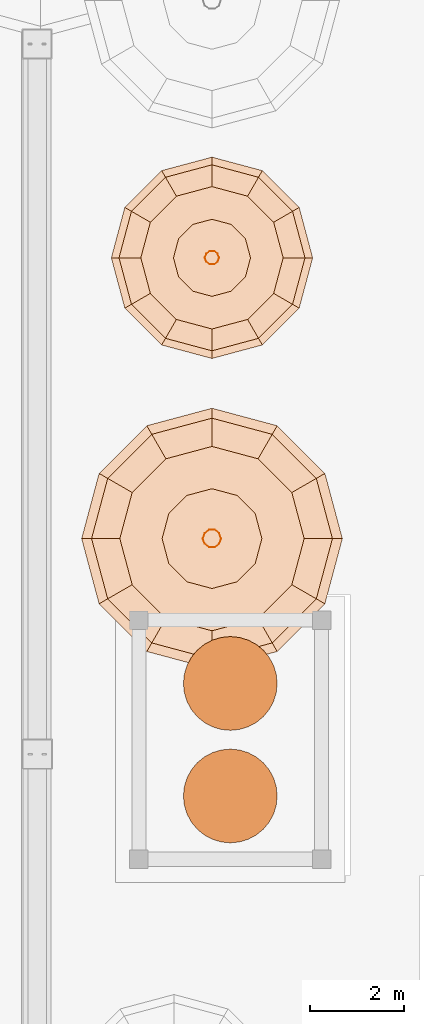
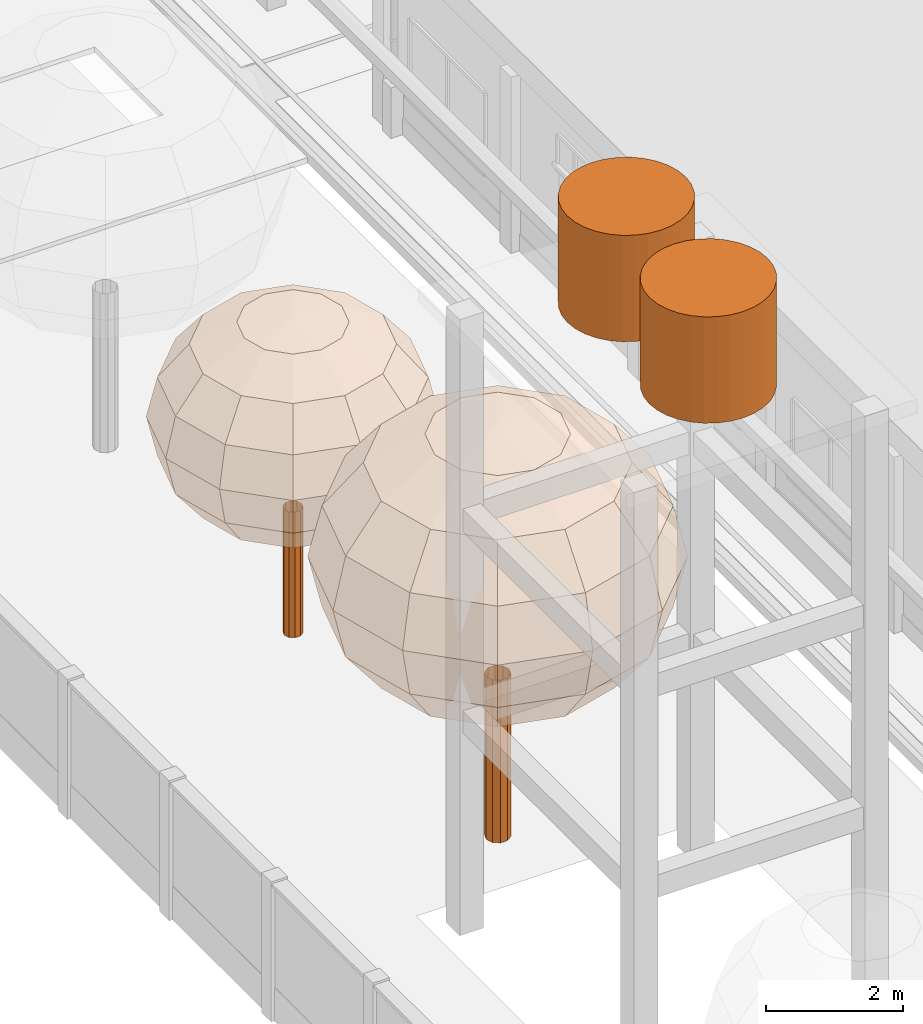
# One storey, part 155 of 177: 4 geographic elements, 2 proxies.
"""IFC4 building model written with IfcOpenShell, lengths in metres."""

from ifc_helpers import new_model, si_unit, origin, origin_with_axes, place, context, subcontext, project, spatial, triangles, element, save


model = new_model("IFC4")

# Units and contexts
model_context = context("Model", 3, precision=1e-05, world=origin_with_axes())
body_context = subcontext(model_context, "Body", "Model", "MODEL_VIEW")
ifc_project = project(units=[si_unit("LENGTHUNIT", "METRE"), si_unit("AREAUNIT", "SQUARE_METRE"), si_unit("VOLUMEUNIT", "CUBIC_METRE"), si_unit("PLANEANGLEUNIT", "RADIAN")], contexts=[model_context])

# Site, building, storey
site_placement = place(None, origin_with_axes())
site = spatial("IfcSite", under=ifc_project, at=site_placement, Name="Predio Los Mangos - Morales, San Martín", CompositionType="ELEMENT")
building_placement = place(site_placement, origin())
building = spatial("IfcBuilding", under=site, at=building_placement, Name="Hogar de Refugio Temporal", CompositionType="ELEMENT")
storey_placement = place(building_placement, origin())
storey = spatial("IfcBuildingStorey", under=building, at=storey_placement, Name="NIVEL 1 (NPT +0.00)", CompositionType="ELEMENT", Elevation=0.0)

# Proxies
proxy_1_placement = place(storey_placement, origin())
element("IfcBuildingElementProxy", 1, at=proxy_1_placement, inside=storey, Name="Cylinder", ObjectType="Elemento", PredefinedType="NOTDEFINED", context=body_context, shape_type="Tessellation", body=[
    triangles([(6.55, 27.75, 11.25), (6.55, 27.75, 13.15), (6.7451, 27.7308, 11.25), (6.7451, 27.7308, 13.15), (6.9327, 27.6739, 11.25), (6.9327, 27.6739, 13.15), (7.1056, 27.5815, 11.25), (7.1056, 27.5815, 13.15), (7.2571, 27.4571, 11.25), (7.2571, 27.4571, 13.15), (7.3815, 27.3056, 11.25), (7.3815, 27.3056, 13.15), (7.4739, 27.1327, 11.25), (7.4739, 27.1327, 13.15), (7.5308, 26.9451, 11.25), (7.5308, 26.9451, 13.15), (7.55, 26.75, 11.25), (7.55, 26.75, 13.15), (7.5308, 26.5549, 11.25), (7.5308, 26.5549, 13.15), (7.4739, 26.3673, 11.25), (7.4739, 26.3673, 13.15), (7.3815, 26.1944, 11.25), (7.3815, 26.1944, 13.15), (7.2571, 26.0429, 11.25), (7.2571, 26.0429, 13.15), (7.1056, 25.9185, 11.25), (7.1056, 25.9185, 13.15), (6.9327, 25.8261, 11.25), (6.9327, 25.8261, 13.15), (6.7451, 25.7692, 11.25), (6.7451, 25.7692, 13.15), (6.55, 25.75, 11.25), (6.55, 25.75, 13.15), (6.3549, 25.7692, 11.25), (6.3549, 25.7692, 13.15), (6.1673, 25.8261, 11.25), (6.1673, 25.8261, 13.15), (5.9944, 25.9185, 11.25), (5.9944, 25.9185, 13.15), (5.8429, 26.0429, 11.25), (5.8429, 26.0429, 13.15), (5.7185, 26.1944, 11.25), (5.7185, 26.1944, 13.15), (5.6261, 26.3673, 11.25), (5.6261, 26.3673, 13.15), (5.5692, 26.5549, 11.25), (5.5692, 26.5549, 13.15), (5.55, 26.75, 11.25), (5.55, 26.75, 13.15), (5.5692, 26.9451, 11.25), (5.5692, 26.9451, 13.15), (5.6261, 27.1327, 11.25), (5.6261, 27.1327, 13.15), (5.7185, 27.3056, 11.25), (5.7185, 27.3056, 13.15), (5.8429, 27.4571, 11.25), (5.8429, 27.4571, 13.15), (5.9944, 27.5815, 11.25), (5.9944, 27.5815, 13.15), (6.1673, 27.6739, 11.25), (6.1673, 27.6739, 13.15), (6.3549, 27.7308, 11.25), (6.3549, 27.7308, 13.15)], [[1, 2, 4], [1, 4, 3], [3, 4, 6], [3, 6, 5], [5, 6, 8], [5, 8, 7], [7, 8, 10], [7, 10, 9], [9, 10, 12], [9, 12, 11], [11, 12, 14], [11, 14, 13], [13, 14, 16], [13, 16, 15], [15, 16, 18], [15, 18, 17], [17, 18, 20], [17, 20, 19], [19, 20, 22], [19, 22, 21], [21, 22, 24], [21, 24, 23], [23, 24, 26], [23, 26, 25], [25, 26, 28], [25, 28, 27], [27, 28, 30], [27, 30, 29], [29, 30, 32], [29, 32, 31], [31, 32, 34], [31, 34, 33], [33, 34, 36], [33, 36, 35], [35, 36, 38], [35, 38, 37], [37, 38, 40], [37, 40, 39], [39, 40, 42], [39, 42, 41], [41, 42, 44], [41, 44, 43], [43, 44, 46], [43, 46, 45], [45, 46, 48], [45, 48, 47], [47, 48, 50], [47, 50, 49], [49, 50, 52], [49, 52, 51], [51, 52, 54], [51, 54, 53], [53, 54, 56], [53, 56, 55], [55, 56, 58], [55, 58, 57], [57, 58, 60], [57, 60, 59], [59, 60, 62], [59, 62, 61], [6, 4, 2], [2, 64, 62], [62, 60, 58], [58, 56, 54], [54, 52, 50], [50, 48, 46], [46, 44, 42], [42, 40, 38], [38, 36, 34], [34, 32, 30], [30, 28, 26], [26, 24, 22], [22, 20, 18], [18, 16, 14], [14, 12, 10], [10, 8, 6], [6, 2, 62], [62, 58, 54], [54, 50, 46], [46, 42, 38], [38, 34, 30], [30, 26, 22], [22, 18, 14], [14, 10, 6], [6, 62, 54], [54, 46, 38], [38, 30, 22], [22, 14, 6], [6, 54, 38], [38, 22, 6], [61, 62, 64], [61, 64, 63], [63, 64, 2], [63, 2, 1], [63, 1, 3], [3, 5, 7], [7, 9, 11], [11, 13, 15], [15, 17, 19], [19, 21, 23], [23, 25, 27], [27, 29, 31], [31, 33, 35], [35, 37, 39], [39, 41, 43], [43, 45, 47], [47, 49, 51], [51, 53, 55], [55, 57, 59], [59, 61, 63], [63, 3, 7], [7, 11, 15], [15, 19, 23], [23, 27, 31], [31, 35, 39], [39, 43, 47], [47, 51, 55], [55, 59, 63], [63, 7, 15], [15, 23, 31], [31, 39, 47], [47, 55, 63], [63, 15, 31], [31, 47, 63]]),
])
proxy_2_placement = place(storey_placement, origin())
element("IfcBuildingElementProxy", 2, at=proxy_2_placement, inside=storey, Name="Cylinder", ObjectType="Elemento", PredefinedType="NOTDEFINED", context=body_context, shape_type="Tessellation", body=[
    triangles([(6.55, 30.15, 11.25), (6.55, 30.15, 13.15), (6.7451, 30.1308, 11.25), (6.7451, 30.1308, 13.15), (6.9327, 30.0739, 11.25), (6.9327, 30.0739, 13.15), (7.1056, 29.9815, 11.25), (7.1056, 29.9815, 13.15), (7.2571, 29.8571, 11.25), (7.2571, 29.8571, 13.15), (7.3815, 29.7056, 11.25), (7.3815, 29.7056, 13.15), (7.4739, 29.5327, 11.25), (7.4739, 29.5327, 13.15), (7.5308, 29.3451, 11.25), (7.5308, 29.3451, 13.15), (7.55, 29.15, 11.25), (7.55, 29.15, 13.15), (7.5308, 28.9549, 11.25), (7.5308, 28.9549, 13.15), (7.4739, 28.7673, 11.25), (7.4739, 28.7673, 13.15), (7.3815, 28.5944, 11.25), (7.3815, 28.5944, 13.15), (7.2571, 28.4429, 11.25), (7.2571, 28.4429, 13.15), (7.1056, 28.3185, 11.25), (7.1056, 28.3185, 13.15), (6.9327, 28.2261, 11.25), (6.9327, 28.2261, 13.15), (6.7451, 28.1692, 11.25), (6.7451, 28.1692, 13.15), (6.55, 28.15, 11.25), (6.55, 28.15, 13.15), (6.3549, 28.1692, 11.25), (6.3549, 28.1692, 13.15), (6.1673, 28.2261, 11.25), (6.1673, 28.2261, 13.15), (5.9944, 28.3185, 11.25), (5.9944, 28.3185, 13.15), (5.8429, 28.4429, 11.25), (5.8429, 28.4429, 13.15), (5.7185, 28.5944, 11.25), (5.7185, 28.5944, 13.15), (5.6261, 28.7673, 11.25), (5.6261, 28.7673, 13.15), (5.5692, 28.9549, 11.25), (5.5692, 28.9549, 13.15), (5.55, 29.15, 11.25), (5.55, 29.15, 13.15), (5.5692, 29.3451, 11.25), (5.5692, 29.3451, 13.15), (5.6261, 29.5327, 11.25), (5.6261, 29.5327, 13.15), (5.7185, 29.7056, 11.25), (5.7185, 29.7056, 13.15), (5.8429, 29.8571, 11.25), (5.8429, 29.8571, 13.15), (5.9944, 29.9815, 11.25), (5.9944, 29.9815, 13.15), (6.1673, 30.0739, 11.25), (6.1673, 30.0739, 13.15), (6.3549, 30.1308, 11.25), (6.3549, 30.1308, 13.15)], [[1, 2, 4], [1, 4, 3], [3, 4, 6], [3, 6, 5], [5, 6, 8], [5, 8, 7], [7, 8, 10], [7, 10, 9], [9, 10, 12], [9, 12, 11], [11, 12, 14], [11, 14, 13], [13, 14, 16], [13, 16, 15], [15, 16, 18], [15, 18, 17], [17, 18, 20], [17, 20, 19], [19, 20, 22], [19, 22, 21], [21, 22, 24], [21, 24, 23], [23, 24, 26], [23, 26, 25], [25, 26, 28], [25, 28, 27], [27, 28, 30], [27, 30, 29], [29, 30, 32], [29, 32, 31], [31, 32, 34], [31, 34, 33], [33, 34, 36], [33, 36, 35], [35, 36, 38], [35, 38, 37], [37, 38, 40], [37, 40, 39], [39, 40, 42], [39, 42, 41], [41, 42, 44], [41, 44, 43], [43, 44, 46], [43, 46, 45], [45, 46, 48], [45, 48, 47], [47, 48, 50], [47, 50, 49], [49, 50, 52], [49, 52, 51], [51, 52, 54], [51, 54, 53], [53, 54, 56], [53, 56, 55], [55, 56, 58], [55, 58, 57], [57, 58, 60], [57, 60, 59], [59, 60, 62], [59, 62, 61], [6, 4, 2], [2, 64, 62], [62, 60, 58], [58, 56, 54], [54, 52, 50], [50, 48, 46], [46, 44, 42], [42, 40, 38], [38, 36, 34], [34, 32, 30], [30, 28, 26], [26, 24, 22], [22, 20, 18], [18, 16, 14], [14, 12, 10], [10, 8, 6], [6, 2, 62], [62, 58, 54], [54, 50, 46], [46, 42, 38], [38, 34, 30], [30, 26, 22], [22, 18, 14], [14, 10, 6], [6, 62, 54], [54, 46, 38], [38, 30, 22], [22, 14, 6], [6, 54, 38], [38, 22, 6], [61, 62, 64], [61, 64, 63], [63, 64, 2], [63, 2, 1], [63, 1, 3], [3, 5, 7], [7, 9, 11], [11, 13, 15], [15, 17, 19], [19, 21, 23], [23, 25, 27], [27, 29, 31], [31, 33, 35], [35, 37, 39], [39, 41, 43], [43, 45, 47], [47, 49, 51], [51, 53, 55], [55, 57, 59], [59, 61, 63], [63, 3, 7], [7, 11, 15], [15, 19, 23], [23, 27, 31], [31, 35, 39], [39, 43, 47], [47, 51, 55], [55, 59, 63], [63, 7, 15], [15, 23, 31], [31, 39, 47], [47, 55, 63], [63, 15, 31], [31, 47, 63]]),
])

# Geographic elements
geographic_element_1_placement = place(storey_placement, origin())
element("IfcGeographicElement", 3, at=geographic_element_1_placement, inside=storey, Name="arbol_tronco", ObjectType="Árbol", PredefinedType="NOTDEFINED", context=body_context, shape_type="Tessellation", body=[
    triangles([(6.3094, 38.23, 0.0), (6.2809, 38.3178, 0.0), (6.2062, 38.3721, 0.0), (6.1138, 38.3721, 0.0), (6.0391, 38.3178, 0.0), (6.0106, 38.23, 0.0), (6.0391, 38.1422, 0.0), (6.1138, 38.0879, 0.0), (6.2062, 38.0879, 0.0), (6.2809, 38.1422, 0.0), (6.3094, 38.23, 2.2407), (6.2809, 38.3178, 2.2407), (6.2062, 38.3721, 2.2407), (6.1138, 38.3721, 2.2407), (6.0391, 38.3178, 2.2407), (6.0106, 38.23, 2.2407), (6.0391, 38.1422, 2.2407), (6.1138, 38.0879, 2.2407), (6.2062, 38.0879, 2.2407), (6.2809, 38.1422, 2.2407)], [[1, 2, 12], [2, 3, 13], [3, 4, 14], [4, 5, 15], [5, 6, 16], [6, 7, 17], [7, 8, 18], [8, 9, 19], [9, 10, 20], [10, 1, 11], [1, 12, 11], [2, 13, 12], [3, 14, 13], [4, 15, 14], [5, 16, 15], [6, 17, 16], [7, 18, 17], [8, 19, 18], [9, 20, 19], [10, 11, 20]]),
])
geographic_element_2_placement = place(storey_placement, origin())
element("IfcGeographicElement", 4, at=geographic_element_2_placement, inside=storey, Name="arbol_copa", ObjectType="Árbol", PredefinedType="NOTDEFINED", context=body_context, shape_type="Tessellation", body=[
    triangles([(6.16, 38.23, 5.6765), (6.16, 38.23, 5.6765), (6.16, 38.23, 5.6765), (6.16, 38.23, 5.6765), (6.16, 38.23, 5.6765), (6.16, 38.23, 5.6765), (6.16, 38.23, 5.6765), (6.16, 38.23, 5.6765), (6.16, 38.23, 5.6765), (6.16, 38.23, 5.6765), (6.16, 38.23, 5.6765), (6.16, 38.23, 5.6765), (6.9818, 38.23, 5.5376), (6.8717, 38.6409, 5.5376), (6.5709, 38.9417, 5.5376), (6.16, 39.0518, 5.5376), (5.7491, 38.9417, 5.5376), (5.4483, 38.6409, 5.5376), (5.3382, 38.23, 5.5376), (5.4483, 37.8191, 5.5376), (5.7491, 37.5183, 5.5376), (6.16, 37.4082, 5.5376), (6.5709, 37.5183, 5.5376), (6.8717, 37.8191, 5.5376), (7.6784, 38.23, 5.1419), (7.475, 38.9892, 5.1419), (6.9192, 39.545, 5.1419), (6.16, 39.7484, 5.1419), (5.4008, 39.545, 5.1419), (4.845, 38.9892, 5.1419), (4.6416, 38.23, 5.1419), (4.845, 37.4708, 5.1419), (5.4008, 36.915, 5.1419), (6.16, 36.7116, 5.1419), (6.9192, 36.915, 5.1419), (7.475, 37.4708, 5.1419), (8.1439, 38.23, 4.5498), (7.8781, 39.222, 4.5498), (7.152, 39.9481, 4.5498), (6.16, 40.2139, 4.5498), (5.168, 39.9481, 4.5498), (4.4419, 39.222, 4.5498), (4.1761, 38.23, 4.5498), (4.4419, 37.238, 4.5498), (5.168, 36.5119, 4.5498), (6.16, 36.2461, 4.5498), (7.152, 36.5119, 4.5498), (7.8781, 37.238, 4.5498), (8.3074, 38.23, 3.8513), (8.0197, 39.3037, 3.8513), (7.2337, 40.0897, 3.8513), (6.16, 40.3774, 3.8513), (5.0863, 40.0897, 3.8513), (4.3003, 39.3037, 3.8513), (4.0126, 38.23, 3.8513), (4.3003, 37.1563, 3.8513), (5.0863, 36.3703, 3.8513), (6.16, 36.0826, 3.8513), (7.2337, 36.3703, 3.8513), (8.0197, 37.1563, 3.8513), (8.1439, 38.23, 3.1528), (7.8781, 39.222, 3.1528), (7.152, 39.9481, 3.1528), (6.16, 40.2139, 3.1528), (5.168, 39.9481, 3.1528), (4.4419, 39.222, 3.1528), (4.1761, 38.23, 3.1528), (4.4419, 37.238, 3.1528), (5.168, 36.5119, 3.1528), (6.16, 36.2461, 3.1528), (7.152, 36.5119, 3.1528), (7.8781, 37.238, 3.1528), (7.6784, 38.23, 2.5606), (7.475, 38.9892, 2.5606), (6.9192, 39.545, 2.5606), (6.16, 39.7484, 2.5606), (5.4008, 39.545, 2.5606), (4.845, 38.9892, 2.5606), (4.6416, 38.23, 2.5606), (4.845, 37.4708, 2.5606), (5.4008, 36.915, 2.5606), (6.16, 36.7116, 2.5606), (6.9192, 36.915, 2.5606), (7.475, 37.4708, 2.5606), (6.9818, 38.23, 2.1649), (6.8717, 38.6409, 2.1649), (6.5709, 38.9417, 2.1649), (6.16, 39.0518, 2.1649), (5.7491, 38.9417, 2.1649), (5.4483, 38.6409, 2.1649), (5.3382, 38.23, 2.1649), (5.4483, 37.8191, 2.1649), (5.7491, 37.5183, 2.1649), (6.16, 37.4082, 2.1649), (6.5709, 37.5183, 2.1649), (6.8717, 37.8191, 2.1649), (6.16, 38.23, 2.026), (6.16, 38.23, 2.026), (6.16, 38.23, 2.026), (6.16, 38.23, 2.026), (6.16, 38.23, 2.026), (6.16, 38.23, 2.026), (6.16, 38.23, 2.026), (6.16, 38.23, 2.026), (6.16, 38.23, 2.026), (6.16, 38.23, 2.026), (6.16, 38.23, 2.026), (6.16, 38.23, 2.026)], [[1, 2, 14], [1, 14, 13], [2, 3, 15], [2, 15, 14], [3, 4, 16], [3, 16, 15], [4, 5, 17], [4, 17, 16], [5, 6, 18], [5, 18, 17], [6, 7, 19], [6, 19, 18], [7, 8, 20], [7, 20, 19], [8, 9, 21], [8, 21, 20], [9, 10, 22], [9, 22, 21], [10, 11, 23], [10, 23, 22], [11, 12, 24], [11, 24, 23], [12, 1, 13], [12, 13, 24], [13, 14, 26], [13, 26, 25], [14, 15, 27], [14, 27, 26], [15, 16, 28], [15, 28, 27], [16, 17, 29], [16, 29, 28], [17, 18, 30], [17, 30, 29], [18, 19, 31], [18, 31, 30], [19, 20, 32], [19, 32, 31], [20, 21, 33], [20, 33, 32], [21, 22, 34], [21, 34, 33], [22, 23, 35], [22, 35, 34], [23, 24, 36], [23, 36, 35], [24, 13, 25], [24, 25, 36], [25, 26, 38], [25, 38, 37], [26, 27, 39], [26, 39, 38], [27, 28, 40], [27, 40, 39], [28, 29, 41], [28, 41, 40], [29, 30, 42], [29, 42, 41], [30, 31, 43], [30, 43, 42], [31, 32, 44], [31, 44, 43], [32, 33, 45], [32, 45, 44], [33, 34, 46], [33, 46, 45], [34, 35, 47], [34, 47, 46], [35, 36, 48], [35, 48, 47], [36, 25, 37], [36, 37, 48], [37, 38, 50], [37, 50, 49], [38, 39, 51], [38, 51, 50], [39, 40, 52], [39, 52, 51], [40, 41, 53], [40, 53, 52], [41, 42, 54], [41, 54, 53], [42, 43, 55], [42, 55, 54], [43, 44, 56], [43, 56, 55], [44, 45, 57], [44, 57, 56], [45, 46, 58], [45, 58, 57], [46, 47, 59], [46, 59, 58], [47, 48, 60], [47, 60, 59], [48, 37, 49], [48, 49, 60], [49, 50, 62], [49, 62, 61], [50, 51, 63], [50, 63, 62], [51, 52, 64], [51, 64, 63], [52, 53, 65], [52, 65, 64], [53, 54, 66], [53, 66, 65], [54, 55, 67], [54, 67, 66], [55, 56, 68], [55, 68, 67], [56, 57, 69], [56, 69, 68], [57, 58, 70], [57, 70, 69], [58, 59, 71], [58, 71, 70], [59, 60, 72], [59, 72, 71], [60, 49, 61], [60, 61, 72], [61, 62, 74], [61, 74, 73], [62, 63, 75], [62, 75, 74], [63, 64, 76], [63, 76, 75], [64, 65, 77], [64, 77, 76], [65, 66, 78], [65, 78, 77], [66, 67, 79], [66, 79, 78], [67, 68, 80], [67, 80, 79], [68, 69, 81], [68, 81, 80], [69, 70, 82], [69, 82, 81], [70, 71, 83], [70, 83, 82], [71, 72, 84], [71, 84, 83], [72, 61, 73], [72, 73, 84], [73, 74, 86], [73, 86, 85], [74, 75, 87], [74, 87, 86], [75, 76, 88], [75, 88, 87], [76, 77, 89], [76, 89, 88], [77, 78, 90], [77, 90, 89], [78, 79, 91], [78, 91, 90], [79, 80, 92], [79, 92, 91], [80, 81, 93], [80, 93, 92], [81, 82, 94], [81, 94, 93], [82, 83, 95], [82, 95, 94], [83, 84, 96], [83, 96, 95], [84, 73, 85], [84, 85, 96], [85, 86, 98], [85, 98, 97], [86, 87, 99], [86, 99, 98], [87, 88, 100], [87, 100, 99], [88, 89, 101], [88, 101, 100], [89, 90, 102], [89, 102, 101], [90, 91, 103], [90, 103, 102], [91, 92, 104], [91, 104, 103], [92, 93, 105], [92, 105, 104], [93, 94, 106], [93, 106, 105], [94, 95, 107], [94, 107, 106], [95, 96, 108], [95, 108, 107], [96, 85, 97], [96, 97, 108]]),
])
geographic_element_3_placement = place(storey_placement, origin())
element("IfcGeographicElement", 5, at=geographic_element_3_placement, inside=storey, Name="arbol_tronco", ObjectType="Árbol", PredefinedType="NOTDEFINED", context=body_context, shape_type="Tessellation", body=[
    triangles([(6.3534, 32.24, 0.0), (6.3165, 32.3537, 0.0), (6.2198, 32.424, 0.0), (6.1002, 32.424, 0.0), (6.0035, 32.3537, 0.0), (5.9666, 32.24, 0.0), (6.0035, 32.1263, 0.0), (6.1002, 32.056, 0.0), (6.2198, 32.056, 0.0), (6.3165, 32.1263, 0.0), (6.3534, 32.24, 2.9016), (6.3165, 32.3537, 2.9016), (6.2198, 32.424, 2.9016), (6.1002, 32.424, 2.9016), (6.0035, 32.3537, 2.9016), (5.9666, 32.24, 2.9016), (6.0035, 32.1263, 2.9016), (6.1002, 32.056, 2.9016), (6.2198, 32.056, 2.9016), (6.3165, 32.1263, 2.9016)], [[1, 2, 12], [2, 3, 13], [3, 4, 14], [4, 5, 15], [5, 6, 16], [6, 7, 17], [7, 8, 18], [8, 9, 19], [9, 10, 20], [10, 1, 11], [1, 12, 11], [2, 13, 12], [3, 14, 13], [4, 15, 14], [5, 16, 15], [6, 17, 16], [7, 18, 17], [8, 19, 18], [9, 20, 19], [10, 11, 20]]),
])
geographic_element_4_placement = place(storey_placement, origin())
element("IfcGeographicElement", 6, at=geographic_element_4_placement, inside=storey, Name="arbol_copa", ObjectType="Árbol", PredefinedType="NOTDEFINED", context=body_context, shape_type="Tessellation", body=[
    triangles([(6.16, 32.24, 7.3508), (6.16, 32.24, 7.3508), (6.16, 32.24, 7.3508), (6.16, 32.24, 7.3508), (6.16, 32.24, 7.3508), (6.16, 32.24, 7.3508), (6.16, 32.24, 7.3508), (6.16, 32.24, 7.3508), (6.16, 32.24, 7.3508), (6.16, 32.24, 7.3508), (6.16, 32.24, 7.3508), (6.16, 32.24, 7.3508), (7.2241, 32.24, 7.1709), (7.0816, 32.7721, 7.1709), (6.6921, 33.1616, 7.1709), (6.16, 33.3041, 7.1709), (5.6279, 33.1616, 7.1709), (5.2384, 32.7721, 7.1709), (5.0959, 32.24, 7.1709), (5.2384, 31.7079, 7.1709), (5.6279, 31.3184, 7.1709), (6.16, 31.1759, 7.1709), (6.6921, 31.3184, 7.1709), (7.0816, 31.7079, 7.1709), (8.1263, 32.24, 6.6585), (7.8628, 33.2231, 6.6585), (7.1431, 33.9428, 6.6585), (6.16, 34.2063, 6.6585), (5.1769, 33.9428, 6.6585), (4.4572, 33.2231, 6.6585), (4.1937, 32.24, 6.6585), (4.4572, 31.2569, 6.6585), (5.1769, 30.5372, 6.6585), (6.16, 30.2737, 6.6585), (7.1431, 30.5372, 6.6585), (7.8628, 31.2569, 6.6585), (8.7291, 32.24, 5.8917), (8.3849, 33.5245, 5.8917), (7.4445, 34.4649, 5.8917), (6.16, 34.8091, 5.8917), (4.8755, 34.4649, 5.8917), (3.9351, 33.5245, 5.8917), (3.5909, 32.24, 5.8917), (3.9351, 30.9555, 5.8917), (4.8755, 30.0151, 5.8917), (6.16, 29.6709, 5.8917), (7.4445, 30.0151, 5.8917), (8.3849, 30.9555, 5.8917), (8.9407, 32.24, 4.9872), (8.5682, 33.6304, 4.9872), (7.5504, 34.6482, 4.9872), (6.16, 35.0207, 4.9872), (4.7696, 34.6482, 4.9872), (3.7518, 33.6304, 4.9872), (3.3793, 32.24, 4.9872), (3.7518, 30.8496, 4.9872), (4.7696, 29.8318, 4.9872), (6.16, 29.4593, 4.9872), (7.5504, 29.8318, 4.9872), (8.5682, 30.8496, 4.9872), (8.7291, 32.24, 4.0827), (8.3849, 33.5245, 4.0827), (7.4445, 34.4649, 4.0827), (6.16, 34.8091, 4.0827), (4.8755, 34.4649, 4.0827), (3.9351, 33.5245, 4.0827), (3.5909, 32.24, 4.0827), (3.9351, 30.9555, 4.0827), (4.8755, 30.0151, 4.0827), (6.16, 29.6709, 4.0827), (7.4445, 30.0151, 4.0827), (8.3849, 30.9555, 4.0827), (8.1263, 32.24, 3.3159), (7.8628, 33.2231, 3.3159), (7.1431, 33.9428, 3.3159), (6.16, 34.2063, 3.3159), (5.1769, 33.9428, 3.3159), (4.4572, 33.2231, 3.3159), (4.1937, 32.24, 3.3159), (4.4572, 31.2569, 3.3159), (5.1769, 30.5372, 3.3159), (6.16, 30.2737, 3.3159), (7.1431, 30.5372, 3.3159), (7.8628, 31.2569, 3.3159), (7.2241, 32.24, 2.8035), (7.0816, 32.7721, 2.8035), (6.6921, 33.1616, 2.8035), (6.16, 33.3041, 2.8035), (5.6279, 33.1616, 2.8035), (5.2384, 32.7721, 2.8035), (5.0959, 32.24, 2.8035), (5.2384, 31.7079, 2.8035), (5.6279, 31.3184, 2.8035), (6.16, 31.1759, 2.8035), (6.6921, 31.3184, 2.8035), (7.0816, 31.7079, 2.8035), (6.16, 32.24, 2.6236), (6.16, 32.24, 2.6236), (6.16, 32.24, 2.6236), (6.16, 32.24, 2.6236), (6.16, 32.24, 2.6236), (6.16, 32.24, 2.6236), (6.16, 32.24, 2.6236), (6.16, 32.24, 2.6236), (6.16, 32.24, 2.6236), (6.16, 32.24, 2.6236), (6.16, 32.24, 2.6236), (6.16, 32.24, 2.6236)], [[1, 2, 14], [1, 14, 13], [2, 3, 15], [2, 15, 14], [3, 4, 16], [3, 16, 15], [4, 5, 17], [4, 17, 16], [5, 6, 18], [5, 18, 17], [6, 7, 19], [6, 19, 18], [7, 8, 20], [7, 20, 19], [8, 9, 21], [8, 21, 20], [9, 10, 22], [9, 22, 21], [10, 11, 23], [10, 23, 22], [11, 12, 24], [11, 24, 23], [12, 1, 13], [12, 13, 24], [13, 14, 26], [13, 26, 25], [14, 15, 27], [14, 27, 26], [15, 16, 28], [15, 28, 27], [16, 17, 29], [16, 29, 28], [17, 18, 30], [17, 30, 29], [18, 19, 31], [18, 31, 30], [19, 20, 32], [19, 32, 31], [20, 21, 33], [20, 33, 32], [21, 22, 34], [21, 34, 33], [22, 23, 35], [22, 35, 34], [23, 24, 36], [23, 36, 35], [24, 13, 25], [24, 25, 36], [25, 26, 38], [25, 38, 37], [26, 27, 39], [26, 39, 38], [27, 28, 40], [27, 40, 39], [28, 29, 41], [28, 41, 40], [29, 30, 42], [29, 42, 41], [30, 31, 43], [30, 43, 42], [31, 32, 44], [31, 44, 43], [32, 33, 45], [32, 45, 44], [33, 34, 46], [33, 46, 45], [34, 35, 47], [34, 47, 46], [35, 36, 48], [35, 48, 47], [36, 25, 37], [36, 37, 48], [37, 38, 50], [37, 50, 49], [38, 39, 51], [38, 51, 50], [39, 40, 52], [39, 52, 51], [40, 41, 53], [40, 53, 52], [41, 42, 54], [41, 54, 53], [42, 43, 55], [42, 55, 54], [43, 44, 56], [43, 56, 55], [44, 45, 57], [44, 57, 56], [45, 46, 58], [45, 58, 57], [46, 47, 59], [46, 59, 58], [47, 48, 60], [47, 60, 59], [48, 37, 49], [48, 49, 60], [49, 50, 62], [49, 62, 61], [50, 51, 63], [50, 63, 62], [51, 52, 64], [51, 64, 63], [52, 53, 65], [52, 65, 64], [53, 54, 66], [53, 66, 65], [54, 55, 67], [54, 67, 66], [55, 56, 68], [55, 68, 67], [56, 57, 69], [56, 69, 68], [57, 58, 70], [57, 70, 69], [58, 59, 71], [58, 71, 70], [59, 60, 72], [59, 72, 71], [60, 49, 61], [60, 61, 72], [61, 62, 74], [61, 74, 73], [62, 63, 75], [62, 75, 74], [63, 64, 76], [63, 76, 75], [64, 65, 77], [64, 77, 76], [65, 66, 78], [65, 78, 77], [66, 67, 79], [66, 79, 78], [67, 68, 80], [67, 80, 79], [68, 69, 81], [68, 81, 80], [69, 70, 82], [69, 82, 81], [70, 71, 83], [70, 83, 82], [71, 72, 84], [71, 84, 83], [72, 61, 73], [72, 73, 84], [73, 74, 86], [73, 86, 85], [74, 75, 87], [74, 87, 86], [75, 76, 88], [75, 88, 87], [76, 77, 89], [76, 89, 88], [77, 78, 90], [77, 90, 89], [78, 79, 91], [78, 91, 90], [79, 80, 92], [79, 92, 91], [80, 81, 93], [80, 93, 92], [81, 82, 94], [81, 94, 93], [82, 83, 95], [82, 95, 94], [83, 84, 96], [83, 96, 95], [84, 73, 85], [84, 85, 96], [85, 86, 98], [85, 98, 97], [86, 87, 99], [86, 99, 98], [87, 88, 100], [87, 100, 99], [88, 89, 101], [88, 101, 100], [89, 90, 102], [89, 102, 101], [90, 91, 103], [90, 103, 102], [91, 92, 104], [91, 104, 103], [92, 93, 105], [92, 105, 104], [93, 94, 106], [93, 106, 105], [94, 95, 107], [94, 107, 106], [95, 96, 108], [95, 108, 107], [96, 85, 97], [96, 97, 108]]),
])

save(model, "model.ifc")
